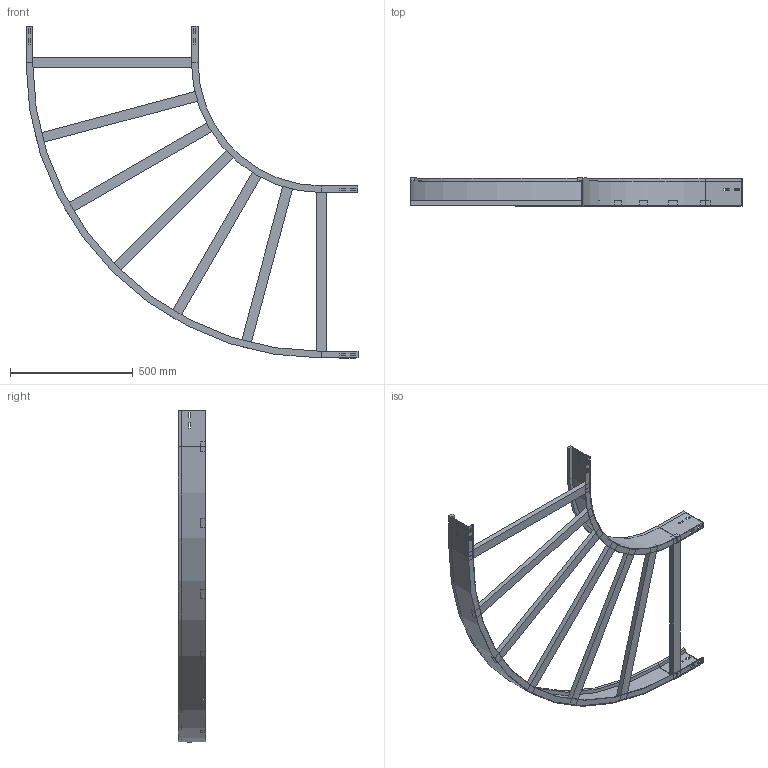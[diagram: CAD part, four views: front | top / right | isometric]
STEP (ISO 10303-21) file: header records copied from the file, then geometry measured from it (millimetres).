
FILE_DESCRIPTION (( 'STEP AP214' ), '1' );
FILE_NAME ('10B5J700.step', '2025-02-21T15:24:16', ( '' ), ( '' ), 'SwSTEP 2.0', 'SolidWorks 2023', '' );
FILE_SCHEMA (( 'AUTOMOTIVE_DESIGN' ));
Length unit declared in the file: millimetre
Products named in the file (4): A2_LONGH.ESTERNO 90°_H112.5_R500+700; A2_LONGH.INTERNO 90°_H112.5_R500; 10B5J700; TRAVERSINO_700
Assembly tree (9 placements, depth 2):
  10B5J700
    A2_LONGH.INTERNO 90°_H112.5_R500
    A2_LONGH.ESTERNO 90°_H112.5_R500+700
    TRAVERSINO_700  x7
Bounding box: 1350 x 112.5 x 1350 mm (x, y, z)
Volume: 5468647.2 mm3; surface area: 1616728 mm2
Topology: 9 solids, 9 shells, 158 faces, 388 edges, 248 vertices
Faces by surface type: plane 150, cylinder 8
Entity records: 3853 total; most frequent: CARTESIAN_POINT 650, ORIENTED_EDGE 632, DIRECTION 600, EDGE_CURVE 316, LINE 300, VECTOR 300, VERTEX_POINT 200, EDGE_LOOP 154
